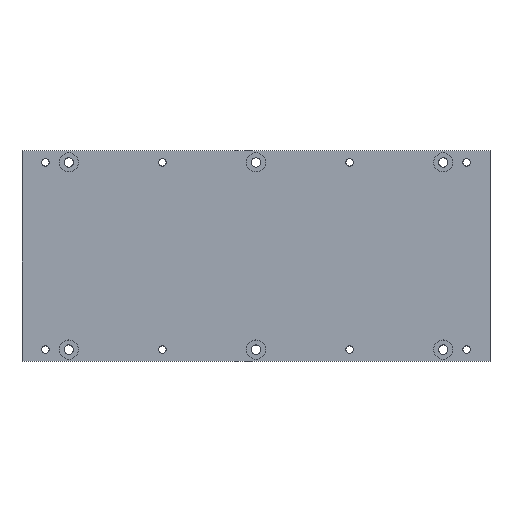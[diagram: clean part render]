
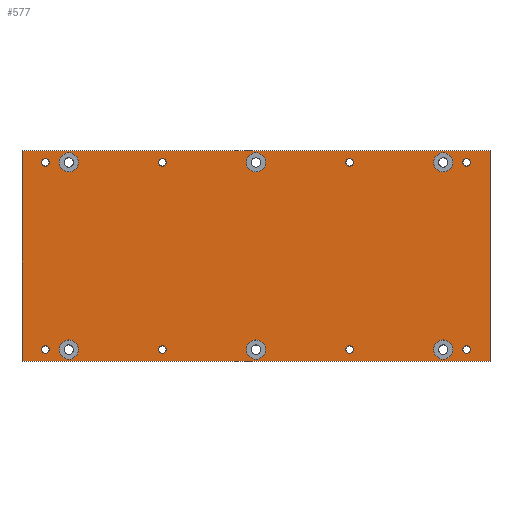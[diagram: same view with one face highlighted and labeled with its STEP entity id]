
A CAD part, top view. The second image highlights one B-rep face of the part: STEP entity #577.
In plain terms, the highlighted planar face has unit normal (0, 0, 1).
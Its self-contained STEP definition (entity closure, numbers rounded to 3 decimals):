
#21=FACE_BOUND('',#130,.T.);
#22=FACE_BOUND('',#131,.T.);
#23=FACE_BOUND('',#132,.T.);
#24=FACE_BOUND('',#133,.T.);
#25=FACE_BOUND('',#134,.T.);
#26=FACE_BOUND('',#135,.T.);
#27=FACE_BOUND('',#136,.T.);
#28=FACE_BOUND('',#137,.T.);
#29=FACE_BOUND('',#138,.T.);
#30=FACE_BOUND('',#139,.T.);
#31=FACE_BOUND('',#140,.T.);
#32=FACE_BOUND('',#141,.T.);
#33=FACE_BOUND('',#142,.T.);
#34=FACE_BOUND('',#143,.T.);
#59=PLANE('',#663);
#91=FACE_OUTER_BOUND('',#129,.T.);
#129=EDGE_LOOP('',(#491,#492,#493,#494));
#130=EDGE_LOOP('',(#495));
#131=EDGE_LOOP('',(#496));
#132=EDGE_LOOP('',(#497));
#133=EDGE_LOOP('',(#498));
#134=EDGE_LOOP('',(#499));
#135=EDGE_LOOP('',(#500));
#136=EDGE_LOOP('',(#501));
#137=EDGE_LOOP('',(#502));
#138=EDGE_LOOP('',(#503));
#139=EDGE_LOOP('',(#504));
#140=EDGE_LOOP('',(#505));
#141=EDGE_LOOP('',(#506));
#142=EDGE_LOOP('',(#507));
#143=EDGE_LOOP('',(#508));
#181=LINE('',#977,#213);
#184=LINE('',#983,#216);
#187=LINE('',#989,#219);
#190=LINE('',#993,#222);
#213=VECTOR('',#823,10.);
#216=VECTOR('',#828,10.);
#219=VECTOR('',#833,10.);
#222=VECTOR('',#838,10.);
#241=CIRCLE('',#624,0.8);
#243=CIRCLE('',#627,0.8);
#245=CIRCLE('',#630,2.05);
#246=CIRCLE('',#632,0.8);
#248=CIRCLE('',#635,2.05);
#249=CIRCLE('',#637,0.8);
#251=CIRCLE('',#640,2.05);
#252=CIRCLE('',#642,2.05);
#253=CIRCLE('',#644,2.05);
#254=CIRCLE('',#646,2.05);
#255=CIRCLE('',#648,0.8);
#257=CIRCLE('',#651,0.8);
#259=CIRCLE('',#654,0.8);
#261=CIRCLE('',#657,0.8);
#281=VERTEX_POINT('',#899);
#283=VERTEX_POINT('',#905);
#285=VERTEX_POINT('',#911);
#286=VERTEX_POINT('',#915);
#288=VERTEX_POINT('',#921);
#289=VERTEX_POINT('',#925);
#291=VERTEX_POINT('',#931);
#292=VERTEX_POINT('',#935);
#293=VERTEX_POINT('',#939);
#294=VERTEX_POINT('',#943);
#295=VERTEX_POINT('',#947);
#297=VERTEX_POINT('',#953);
#299=VERTEX_POINT('',#959);
#301=VERTEX_POINT('',#965);
#305=VERTEX_POINT('',#974);
#306=VERTEX_POINT('',#976);
#308=VERTEX_POINT('',#982);
#310=VERTEX_POINT('',#988);
#335=EDGE_CURVE('',#281,#281,#241,.T.);
#338=EDGE_CURVE('',#283,#283,#243,.T.);
#341=EDGE_CURVE('',#285,#285,#245,.T.);
#343=EDGE_CURVE('',#286,#286,#246,.T.);
#346=EDGE_CURVE('',#288,#288,#248,.T.);
#348=EDGE_CURVE('',#289,#289,#249,.T.);
#351=EDGE_CURVE('',#291,#291,#251,.T.);
#353=EDGE_CURVE('',#292,#292,#252,.T.);
#355=EDGE_CURVE('',#293,#293,#253,.T.);
#357=EDGE_CURVE('',#294,#294,#254,.T.);
#359=EDGE_CURVE('',#295,#295,#255,.T.);
#362=EDGE_CURVE('',#297,#297,#257,.T.);
#365=EDGE_CURVE('',#299,#299,#259,.T.);
#368=EDGE_CURVE('',#301,#301,#261,.T.);
#373=EDGE_CURVE('',#306,#305,#181,.T.);
#376=EDGE_CURVE('',#308,#306,#184,.T.);
#379=EDGE_CURVE('',#310,#308,#187,.T.);
#382=EDGE_CURVE('',#305,#310,#190,.T.);
#491=ORIENTED_EDGE('',*,*,#382,.T.);
#492=ORIENTED_EDGE('',*,*,#379,.T.);
#493=ORIENTED_EDGE('',*,*,#376,.T.);
#494=ORIENTED_EDGE('',*,*,#373,.T.);
#495=ORIENTED_EDGE('',*,*,#368,.T.);
#496=ORIENTED_EDGE('',*,*,#365,.T.);
#497=ORIENTED_EDGE('',*,*,#362,.T.);
#498=ORIENTED_EDGE('',*,*,#359,.T.);
#499=ORIENTED_EDGE('',*,*,#357,.T.);
#500=ORIENTED_EDGE('',*,*,#355,.T.);
#501=ORIENTED_EDGE('',*,*,#353,.T.);
#502=ORIENTED_EDGE('',*,*,#351,.T.);
#503=ORIENTED_EDGE('',*,*,#348,.T.);
#504=ORIENTED_EDGE('',*,*,#346,.T.);
#505=ORIENTED_EDGE('',*,*,#343,.T.);
#506=ORIENTED_EDGE('',*,*,#341,.T.);
#507=ORIENTED_EDGE('',*,*,#338,.T.);
#508=ORIENTED_EDGE('',*,*,#335,.T.);
#577=ADVANCED_FACE('',(#91,#21,#22,#23,#24,#25,#26,#27,#28,#29,#30,#31,
#32,#33,#34),#59,.T.);
#624=AXIS2_PLACEMENT_3D('',#900,#735,#736);
#627=AXIS2_PLACEMENT_3D('',#906,#742,#743);
#630=AXIS2_PLACEMENT_3D('',#912,#749,#750);
#632=AXIS2_PLACEMENT_3D('',#916,#754,#755);
#635=AXIS2_PLACEMENT_3D('',#922,#761,#762);
#637=AXIS2_PLACEMENT_3D('',#926,#766,#767);
#640=AXIS2_PLACEMENT_3D('',#932,#773,#774);
#642=AXIS2_PLACEMENT_3D('',#936,#778,#779);
#644=AXIS2_PLACEMENT_3D('',#940,#783,#784);
#646=AXIS2_PLACEMENT_3D('',#944,#788,#789);
#648=AXIS2_PLACEMENT_3D('',#948,#793,#794);
#651=AXIS2_PLACEMENT_3D('',#954,#800,#801);
#654=AXIS2_PLACEMENT_3D('',#960,#807,#808);
#657=AXIS2_PLACEMENT_3D('',#966,#814,#815);
#663=AXIS2_PLACEMENT_3D('',#994,#839,#840);
#735=DIRECTION('center_axis',(0.,0.,-1.));
#736=DIRECTION('ref_axis',(1.,0.,0.));
#742=DIRECTION('center_axis',(0.,0.,-1.));
#743=DIRECTION('ref_axis',(1.,0.,0.));
#749=DIRECTION('center_axis',(0.,0.,-1.));
#750=DIRECTION('ref_axis',(1.,0.,0.));
#754=DIRECTION('center_axis',(0.,0.,-1.));
#755=DIRECTION('ref_axis',(1.,0.,0.));
#761=DIRECTION('center_axis',(0.,0.,-1.));
#762=DIRECTION('ref_axis',(1.,0.,0.));
#766=DIRECTION('center_axis',(0.,0.,-1.));
#767=DIRECTION('ref_axis',(1.,0.,0.));
#773=DIRECTION('center_axis',(0.,0.,-1.));
#774=DIRECTION('ref_axis',(1.,0.,0.));
#778=DIRECTION('center_axis',(0.,0.,-1.));
#779=DIRECTION('ref_axis',(1.,0.,0.));
#783=DIRECTION('center_axis',(0.,0.,-1.));
#784=DIRECTION('ref_axis',(1.,0.,0.));
#788=DIRECTION('center_axis',(0.,0.,-1.));
#789=DIRECTION('ref_axis',(1.,0.,0.));
#793=DIRECTION('center_axis',(0.,0.,-1.));
#794=DIRECTION('ref_axis',(1.,0.,0.));
#800=DIRECTION('center_axis',(0.,0.,-1.));
#801=DIRECTION('ref_axis',(1.,0.,0.));
#807=DIRECTION('center_axis',(0.,0.,-1.));
#808=DIRECTION('ref_axis',(1.,0.,0.));
#814=DIRECTION('center_axis',(0.,0.,-1.));
#815=DIRECTION('ref_axis',(1.,0.,0.));
#823=DIRECTION('',(0.,1.,0.));
#828=DIRECTION('',(1.,0.,0.));
#833=DIRECTION('',(0.,-1.,0.));
#838=DIRECTION('',(-1.,0.,0.));
#839=DIRECTION('center_axis',(0.,0.,1.));
#840=DIRECTION('ref_axis',(1.,0.,0.));
#899=CARTESIAN_POINT('',(-20.8,0.,3.5));
#900=CARTESIAN_POINT('Origin',(-20.,0.,3.5));
#905=CARTESIAN_POINT('',(44.2,0.,3.5));
#906=CARTESIAN_POINT('Origin',(45.,0.,3.5));
#911=CARTESIAN_POINT('',(-42.05,40.,3.5));
#912=CARTESIAN_POINT('Origin',(-40.,40.,3.5));
#915=CARTESIAN_POINT('',(-20.8,40.,3.5));
#916=CARTESIAN_POINT('Origin',(-20.,40.,3.5));
#921=CARTESIAN_POINT('',(37.95,0.,3.5));
#922=CARTESIAN_POINT('Origin',(40.,0.,3.5));
#925=CARTESIAN_POINT('',(-45.8,0.,3.5));
#926=CARTESIAN_POINT('Origin',(-45.,0.,3.5));
#931=CARTESIAN_POINT('',(-2.05,0.,3.5));
#932=CARTESIAN_POINT('Origin',(0.,0.,3.5));
#935=CARTESIAN_POINT('',(-42.05,0.,3.5));
#936=CARTESIAN_POINT('Origin',(-40.,0.,3.5));
#939=CARTESIAN_POINT('',(-2.05,40.,3.5));
#940=CARTESIAN_POINT('Origin',(0.,40.,3.5));
#943=CARTESIAN_POINT('',(37.95,40.,3.5));
#944=CARTESIAN_POINT('Origin',(40.,40.,3.5));
#947=CARTESIAN_POINT('',(19.2,0.,3.5));
#948=CARTESIAN_POINT('Origin',(20.,0.,3.5));
#953=CARTESIAN_POINT('',(44.2,40.,3.5));
#954=CARTESIAN_POINT('Origin',(45.,40.,3.5));
#959=CARTESIAN_POINT('',(-45.8,40.,3.5));
#960=CARTESIAN_POINT('Origin',(-45.,40.,3.5));
#965=CARTESIAN_POINT('',(19.2,40.,3.5));
#966=CARTESIAN_POINT('Origin',(20.,40.,3.5));
#974=CARTESIAN_POINT('',(50.,42.5,3.5));
#976=CARTESIAN_POINT('',(50.,-2.5,3.5));
#977=CARTESIAN_POINT('',(50.,42.5,3.5));
#982=CARTESIAN_POINT('',(-50.,-2.5,3.5));
#983=CARTESIAN_POINT('',(50.,-2.5,3.5));
#988=CARTESIAN_POINT('',(-50.,42.5,3.5));
#989=CARTESIAN_POINT('',(-50.,-2.5,3.5));
#993=CARTESIAN_POINT('',(-50.,42.5,3.5));
#994=CARTESIAN_POINT('Origin',(0.,20.,3.5));
